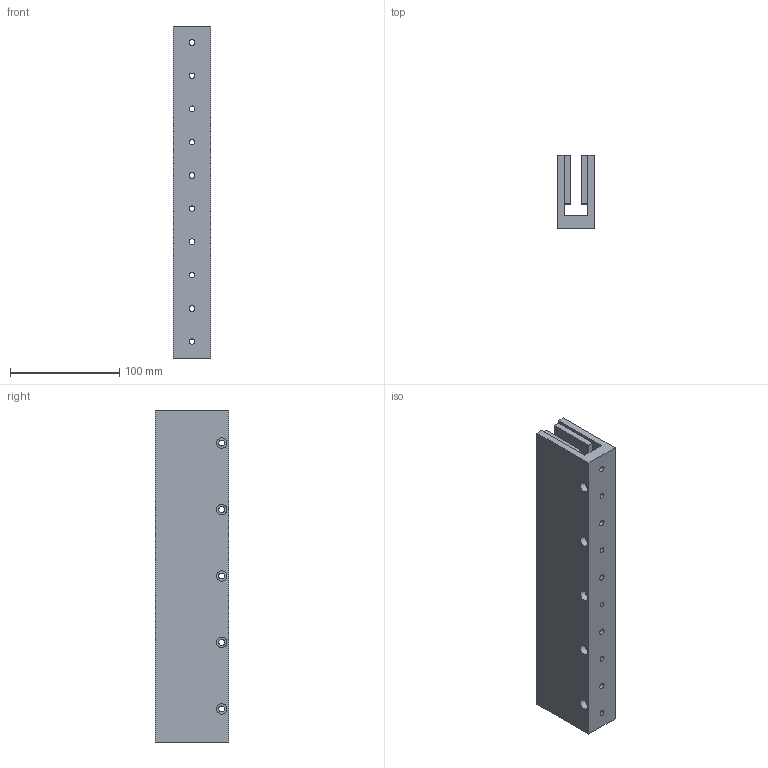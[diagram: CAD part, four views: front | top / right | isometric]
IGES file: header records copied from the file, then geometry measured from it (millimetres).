
Global section: file name: No Iges File Name specified; native system: Autodesk Inventor 2012; preprocessor: AutoDesk Inventor Iges Exporter R2012; author: je17857; date: 20120511.155303; units: inch
Bounding box: 34.29 x 67.31 x 304.55 mm (x, y, z)
Volume: 449008.3 mm3; surface area: 118874 mm2
Topology: 1 solids, 1 shells, 155 faces, 359 edges, 241 vertices
Faces by surface type: plane 125, revolution 30
